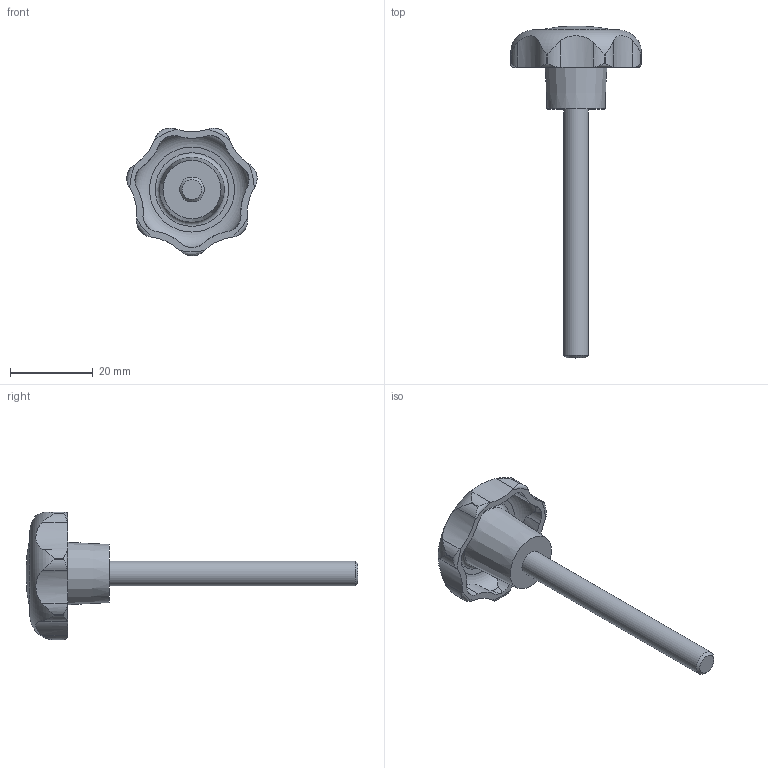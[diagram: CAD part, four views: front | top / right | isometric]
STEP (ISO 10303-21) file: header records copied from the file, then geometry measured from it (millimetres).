
FILE_DESCRIPTION( ( 'STEP AP203' ), '1' );
FILE_NAME( 'C:/Temp/Ganter_Step_05_03_2020/data/2_2/gn_6336_4/gn_6336_4_st/Star knob GN 6336.4-ST-32-M6-60.stp', '2020-03-05T12:07:23', ( 'License CC BY-ND 4.0' ), ( 'CADENAS' ), ' ', 'PARTsolutions', ' ' );
FILE_SCHEMA( ( 'CONFIG_CONTROL_DESIGN' ) );
Length unit declared in the file: millimetre
Products named in the file (1): _Star knob GN 6336.4-ST-32-M6-60
Bounding box: 31.4 x 80 x 30.81 mm (x, y, z)
Volume: 7498.3 mm3; surface area: 4307.1 mm2
Topology: 1 solids, 1 shells, 74 faces, 209 edges, 138 vertices
Faces by surface type: cylinder 50, torus 10, cone 10, plane 3, sphere 1
Full cylindrical faces by diameter (mm): 6 x1
Entity records: 3221 total; most frequent: CARTESIAN_POINT 1406, ORIENTED_EDGE 394, DIRECTION 336, EDGE_CURVE 197, AXIS2_PLACEMENT_3D 147, VERTEX_POINT 136, EDGE_LOOP 83, B_SPLINE_CURVE_WITH_KNOTS 83
